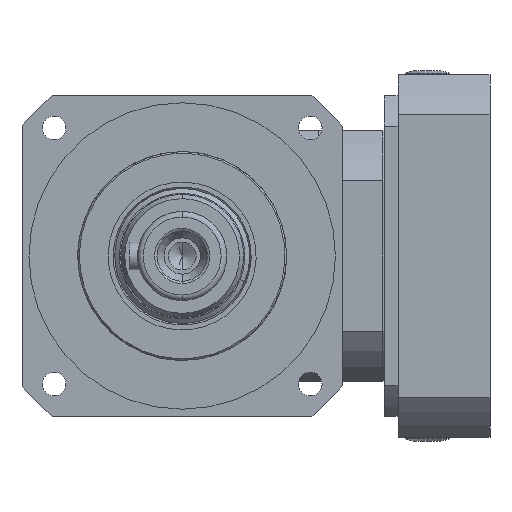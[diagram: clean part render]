
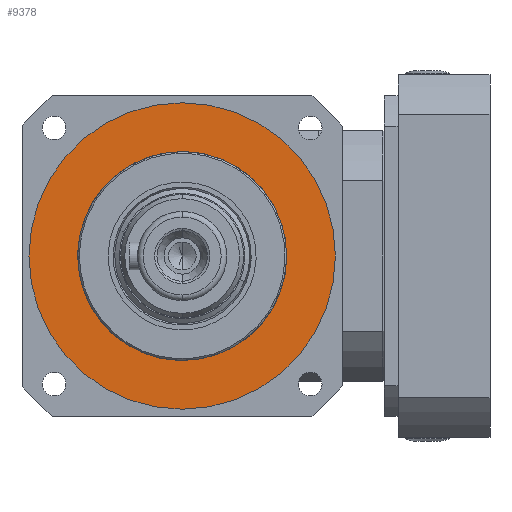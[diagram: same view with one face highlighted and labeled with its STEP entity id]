
A CAD part, left-side view. The second image highlights one B-rep face of the part: STEP entity #9378.
In plain terms, the highlighted planar face has unit normal (-1, 0, 0).
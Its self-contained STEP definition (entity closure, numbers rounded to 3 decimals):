
#224 = CARTESIAN_POINT ( 'NONE',  ( -67., 0., 0. ) ) ;
#586 = CIRCLE ( 'NONE', #9909, 37.5 ) ;
#1102 = DIRECTION ( 'NONE',  ( 0., 0., 1. ) ) ;
#1470 = DIRECTION ( 'NONE',  ( -1., 0., 0. ) ) ;
#2378 = DIRECTION ( 'NONE',  ( 0., 0., -1. ) ) ;
#6492 = CIRCLE ( 'NONE', #14265, 55. ) ;
#7395 = CARTESIAN_POINT ( 'NONE',  ( -67., 0., 37.5 ) ) ;
#7699 = ORIENTED_EDGE ( 'NONE', *, *, #14699, .T. ) ;
#7764 = VERTEX_POINT ( 'NONE', #7395 ) ;
#8001 = FACE_OUTER_BOUND ( 'NONE', #9007, .T. ) ;
#8674 = VERTEX_POINT ( 'NONE', #15166 ) ;
#9007 = EDGE_LOOP ( 'NONE', ( #7699, #24295 ) ) ;
#9378 = ADVANCED_FACE ( 'NONE', ( #16607, #8001 ), #10802, .F. ) ;
#9909 = AXIS2_PLACEMENT_3D ( 'NONE', #10263, #25120, #12391 ) ;
#10263 = CARTESIAN_POINT ( 'NONE',  ( -67., 0., 0. ) ) ;
#10293 = EDGE_LOOP ( 'NONE', ( #24585, #14700 ) ) ;
#10802 = PLANE ( 'NONE',  #27449 ) ;
#11480 = VERTEX_POINT ( 'NONE', #20853 ) ;
#12186 = DIRECTION ( 'NONE',  ( -1., 0., 0. ) ) ;
#12391 = DIRECTION ( 'NONE',  ( 0., 0., 1. ) ) ;
#13193 = CIRCLE ( 'NONE', #23227, 37.5 ) ;
#13780 = DIRECTION ( 'NONE',  ( -1., 0., 0. ) ) ;
#14150 = CARTESIAN_POINT ( 'NONE',  ( -67., 0., 0. ) ) ;
#14265 = AXIS2_PLACEMENT_3D ( 'NONE', #24915, #12186, #27050 ) ;
#14699 = EDGE_CURVE ( 'NONE', #11480, #8674, #6492, .T. ) ;
#14700 = ORIENTED_EDGE ( 'NONE', *, *, #24429, .F. ) ;
#15077 = DIRECTION ( 'NONE',  ( 1., 0., 0. ) ) ;
#15166 = CARTESIAN_POINT ( 'NONE',  ( -67., 0., -55. ) ) ;
#16287 = DIRECTION ( 'NONE',  ( 0., 0., 1. ) ) ;
#16423 = CIRCLE ( 'NONE', #26260, 55. ) ;
#16607 = FACE_BOUND ( 'NONE', #10293, .T. ) ;
#18591 = EDGE_CURVE ( 'NONE', #8674, #11480, #16423, .T. ) ;
#19951 = CARTESIAN_POINT ( 'NONE',  ( -67., 0., -37.5 ) ) ;
#20853 = CARTESIAN_POINT ( 'NONE',  ( -67., 0., 55. ) ) ;
#21654 = VERTEX_POINT ( 'NONE', #19951 ) ;
#23227 = AXIS2_PLACEMENT_3D ( 'NONE', #14150, #1470, #16287 ) ;
#24295 = ORIENTED_EDGE ( 'NONE', *, *, #18591, .T. ) ;
#24429 = EDGE_CURVE ( 'NONE', #21654, #7764, #13193, .T. ) ;
#24500 = EDGE_CURVE ( 'NONE', #7764, #21654, #586, .T. ) ;
#24585 = ORIENTED_EDGE ( 'NONE', *, *, #24500, .F. ) ;
#24915 = CARTESIAN_POINT ( 'NONE',  ( -67., 0., 0. ) ) ;
#25120 = DIRECTION ( 'NONE',  ( -1., 0., 0. ) ) ;
#26260 = AXIS2_PLACEMENT_3D ( 'NONE', #26525, #13780, #1102 ) ;
#26525 = CARTESIAN_POINT ( 'NONE',  ( -67., 0., 0. ) ) ;
#27050 = DIRECTION ( 'NONE',  ( 0., 0., 1. ) ) ;
#27449 = AXIS2_PLACEMENT_3D ( 'NONE', #224, #15077, #2378 ) ;
